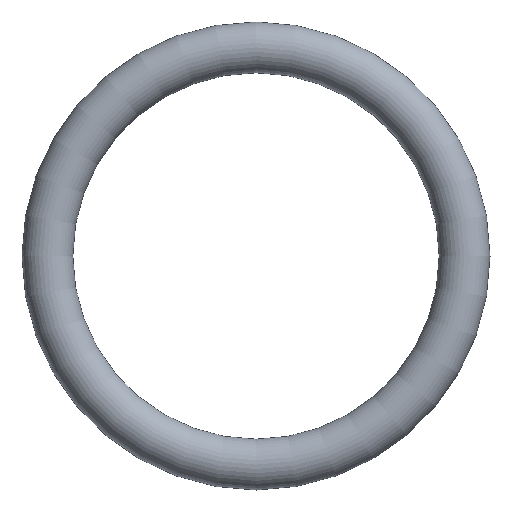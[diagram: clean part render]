
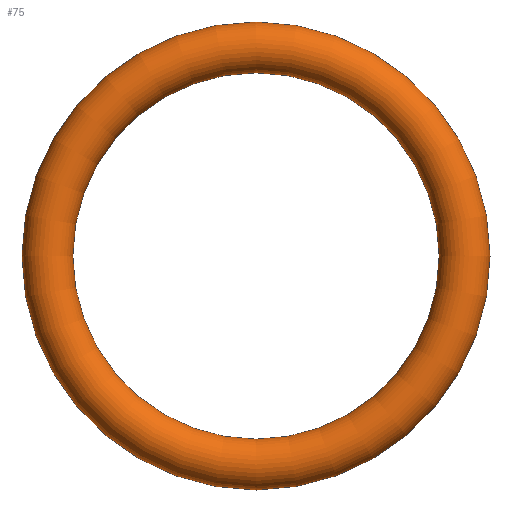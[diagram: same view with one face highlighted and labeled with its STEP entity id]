
A CAD part, front view. The second image highlights one B-rep face of the part: STEP entity #75.
In plain terms, the highlighted toroidal (fillet/blend) face has major radius 9.85 mm and minor radius 1.2 mm.
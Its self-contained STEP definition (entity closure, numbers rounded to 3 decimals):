
#75 = ADVANCED_FACE( '', ( #77 ), #78, .T. );
#77 = FACE_BOUND( '', #79, .T. );
#78 = TOROIDAL_SURFACE( '', #80, 9.85, 1.2 );
#79 = VERTEX_LOOP( '', #81 );
#80 = AXIS2_PLACEMENT_3D( '', #82, #83, #84 );
#81 = VERTEX_POINT( '', #85 );
#82 = CARTESIAN_POINT( '', ( 0., 0., 0. ) );
#83 = DIRECTION( '', ( 0., -1., 0. ) );
#84 = DIRECTION( '', ( 0., 0., -1. ) );
#85 = CARTESIAN_POINT( '', ( 0., 0., -11.05 ) );
